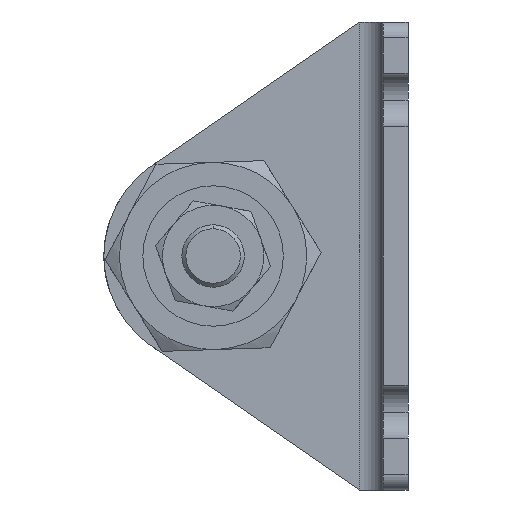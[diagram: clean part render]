
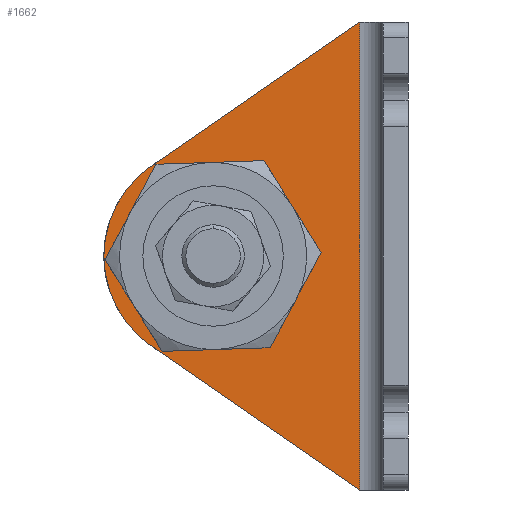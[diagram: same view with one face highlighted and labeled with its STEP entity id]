
A CAD part, left-side view. The second image highlights one B-rep face of the part: STEP entity #1662.
In plain terms, the highlighted planar face has unit normal (-1, 0, 0) as drawn and (1, 0, 0) by its records, which use the part's own axes.
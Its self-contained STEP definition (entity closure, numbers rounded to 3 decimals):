
#6 = DIRECTION ( 'NONE',  ( 0., 1., 0. ) ) ;
#38 = VERTEX_POINT ( 'NONE', #3498 ) ;
#94 = VERTEX_POINT ( 'NONE', #1625 ) ;
#110 = AXIS2_PLACEMENT_3D ( 'NONE', #296, #3057, #3025 ) ;
#257 = CARTESIAN_POINT ( 'NONE',  ( 3.2, 25., -30. ) ) ;
#285 = CIRCLE ( 'NONE', #1411, 9.5 ) ;
#296 = CARTESIAN_POINT ( 'NONE',  ( 3.2, 25., -30. ) ) ;
#309 = DIRECTION ( 'NONE',  ( 0., 1., 0. ) ) ;
#340 = DIRECTION ( 'NONE',  ( 0., 0.823, -0.568 ) ) ;
#454 = EDGE_CURVE ( 'NONE', #2264, #3741, #285, .T. ) ;
#484 = ORIENTED_EDGE ( 'NONE', *, *, #454, .F. ) ;
#572 = EDGE_LOOP ( 'NONE', ( #484, #3361 ) ) ;
#709 = CARTESIAN_POINT ( 'NONE',  ( 3.2, 4.169, -61.403 ) ) ;
#787 = EDGE_CURVE ( 'NONE', #3368, #3630, #825, .T. ) ;
#811 = CIRCLE ( 'NONE', #839, 14. ) ;
#825 = LINE ( 'NONE', #709, #2122 ) ;
#839 = AXIS2_PLACEMENT_3D ( 'NONE', #257, #2443, #4010 ) ;
#906 = PLANE ( 'NONE',  #3960 ) ;
#930 = CARTESIAN_POINT ( 'NONE',  ( 3.2, 6.2, -60. ) ) ;
#985 = CARTESIAN_POINT ( 'NONE',  ( 3.2, 34.5, -30. ) ) ;
#1106 = ORIENTED_EDGE ( 'NONE', *, *, #2137, .F. ) ;
#1232 = CARTESIAN_POINT ( 'NONE',  ( 3.2, 3.2, -60. ) ) ;
#1261 = FACE_OUTER_BOUND ( 'NONE', #3873, .T. ) ;
#1350 = EDGE_CURVE ( 'NONE', #38, #3368, #2363, .T. ) ;
#1411 = AXIS2_PLACEMENT_3D ( 'NONE', #3711, #3059, #6 ) ;
#1455 = VECTOR ( 'NONE', #3728, 1000. ) ;
#1625 = CARTESIAN_POINT ( 'NONE',  ( 3.2, 39., -30. ) ) ;
#1653 = EDGE_CURVE ( 'NONE', #3630, #94, #811, .T. ) ;
#1662 = ADVANCED_FACE ( 'NONE', ( #3207, #1261 ), #906, .T. ) ;
#1671 = CARTESIAN_POINT ( 'NONE',  ( 3.2, 25., -30. ) ) ;
#1679 = CIRCLE ( 'NONE', #110, 9.5 ) ;
#1787 = EDGE_CURVE ( 'NONE', #94, #3477, #3872, .T. ) ;
#2122 = VECTOR ( 'NONE', #2233, 1000. ) ;
#2137 = EDGE_CURVE ( 'NONE', #38, #3477, #2900, .T. ) ;
#2213 = ORIENTED_EDGE ( 'NONE', *, *, #1653, .T. ) ;
#2233 = DIRECTION ( 'NONE',  ( 0., 0.823, 0.568 ) ) ;
#2264 = VERTEX_POINT ( 'NONE', #985 ) ;
#2363 = LINE ( 'NONE', #2484, #1455 ) ;
#2416 = ORIENTED_EDGE ( 'NONE', *, *, #787, .T. ) ;
#2430 = DIRECTION ( 'NONE',  ( 1., 0., 0. ) ) ;
#2443 = DIRECTION ( 'NONE',  ( 1., 0., 0. ) ) ;
#2484 = CARTESIAN_POINT ( 'NONE',  ( 3.2, 6.2, -60. ) ) ;
#2781 = CARTESIAN_POINT ( 'NONE',  ( 3.2, 32.956, -18.481 ) ) ;
#2844 = AXIS2_PLACEMENT_3D ( 'NONE', #1671, #3815, #3505 ) ;
#2851 = CARTESIAN_POINT ( 'NONE',  ( 3.2, 32.956, -41.519 ) ) ;
#2900 = LINE ( 'NONE', #3080, #3575 ) ;
#3025 = DIRECTION ( 'NONE',  ( 0., 1., 0. ) ) ;
#3057 = DIRECTION ( 'NONE',  ( 1., 0., 0. ) ) ;
#3059 = DIRECTION ( 'NONE',  ( 1., 0., 0. ) ) ;
#3080 = CARTESIAN_POINT ( 'NONE',  ( 3.2, 32.226, -17.976 ) ) ;
#3203 = EDGE_CURVE ( 'NONE', #3741, #2264, #1679, .T. ) ;
#3207 = FACE_BOUND ( 'NONE', #572, .T. ) ;
#3361 = ORIENTED_EDGE ( 'NONE', *, *, #3203, .F. ) ;
#3368 = VERTEX_POINT ( 'NONE', #930 ) ;
#3477 = VERTEX_POINT ( 'NONE', #2781 ) ;
#3498 = CARTESIAN_POINT ( 'NONE',  ( 3.2, 6.2, 0. ) ) ;
#3499 = CARTESIAN_POINT ( 'NONE',  ( 3.2, 15.5, -30. ) ) ;
#3505 = DIRECTION ( 'NONE',  ( 0., 1., 0. ) ) ;
#3528 = ORIENTED_EDGE ( 'NONE', *, *, #1787, .T. ) ;
#3575 = VECTOR ( 'NONE', #340, 1000. ) ;
#3630 = VERTEX_POINT ( 'NONE', #2851 ) ;
#3711 = CARTESIAN_POINT ( 'NONE',  ( 3.2, 25., -30. ) ) ;
#3728 = DIRECTION ( 'NONE',  ( 0., 0., -1. ) ) ;
#3741 = VERTEX_POINT ( 'NONE', #3499 ) ;
#3752 = ORIENTED_EDGE ( 'NONE', *, *, #1350, .T. ) ;
#3815 = DIRECTION ( 'NONE',  ( 1., 0., 0. ) ) ;
#3872 = CIRCLE ( 'NONE', #2844, 14. ) ;
#3873 = EDGE_LOOP ( 'NONE', ( #2416, #2213, #3528, #1106, #3752 ) ) ;
#3960 = AXIS2_PLACEMENT_3D ( 'NONE', #1232, #2430, #309 ) ;
#4010 = DIRECTION ( 'NONE',  ( 0., 1., 0. ) ) ;
